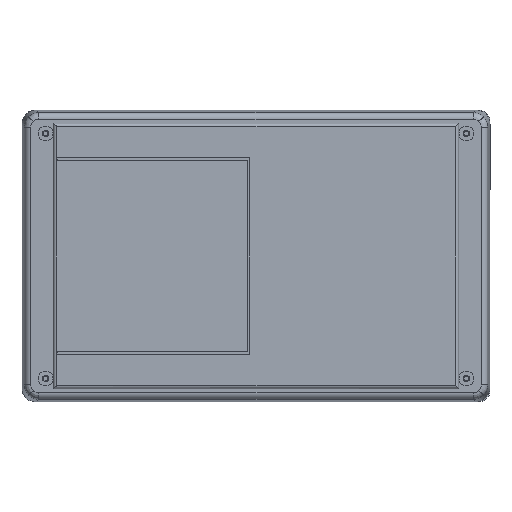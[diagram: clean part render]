
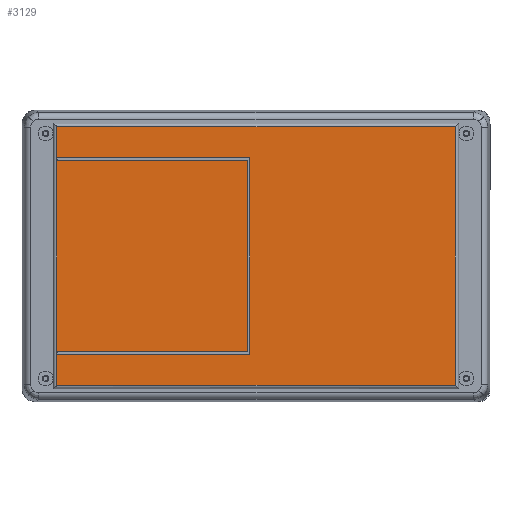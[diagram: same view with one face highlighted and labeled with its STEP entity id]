
A CAD part, front view. The second image highlights one B-rep face of the part: STEP entity #3129.
In plain terms, the highlighted planar face has unit normal (0, -1, 0).
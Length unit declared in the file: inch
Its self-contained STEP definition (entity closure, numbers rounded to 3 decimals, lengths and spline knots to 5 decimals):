
#168 = EDGE_CURVE ( 'NONE', #3325, #7472, #5228, .T. ) ;
#215 = CARTESIAN_POINT ( 'NONE',  ( -2.43468, -0.70866, 1.20079 ) ) ;
#373 = DIRECTION ( 'NONE',  ( 0., -1., 0. ) ) ;
#441 = VERTEX_POINT ( 'NONE', #3504 ) ;
#472 = VECTOR ( 'NONE', #5473, 39.37008 ) ;
#565 = VERTEX_POINT ( 'NONE', #3633 ) ;
#578 = VECTOR ( 'NONE', #2349, 39.37008 ) ;
#684 = DIRECTION ( 'NONE',  ( -1., 0., 0. ) ) ;
#848 = CARTESIAN_POINT ( 'NONE',  ( 2.44094, -0.70866, 1.62402 ) ) ;
#932 = DIRECTION ( 'NONE',  ( -1., 0., 0. ) ) ;
#1035 = CARTESIAN_POINT ( 'NONE',  ( -2.43468, -0.70866, -1.20079 ) ) ;
#1140 = VECTOR ( 'NONE', #5852, 39.37008 ) ;
#1294 = CARTESIAN_POINT ( 'NONE',  ( -2.43468, -0.70866, -1.16929 ) ) ;
#1418 = EDGE_CURVE ( 'NONE', #5858, #441, #4539, .T. ) ;
#1440 = LINE ( 'NONE', #215, #2018 ) ;
#1522 = CARTESIAN_POINT ( 'NONE',  ( -2.48031, -0.70866, 1.62402 ) ) ;
#1650 = EDGE_LOOP ( 'NONE', ( #7610, #5282, #4144, #3055 ) ) ;
#1913 = VERTEX_POINT ( 'NONE', #4912 ) ;
#2018 = VECTOR ( 'NONE', #3835, 39.37008 ) ;
#2092 = VECTOR ( 'NONE', #7535, 39.37008 ) ;
#2260 = CARTESIAN_POINT ( 'NONE',  ( -0.1063, -0.70866, 1.16929 ) ) ;
#2349 = DIRECTION ( 'NONE',  ( 1., 0., 0. ) ) ;
#2427 = CARTESIAN_POINT ( 'NONE',  ( -2.43468, -0.70866, 1.16929 ) ) ;
#2476 = VECTOR ( 'NONE', #3040, 39.37008 ) ;
#2485 = CARTESIAN_POINT ( 'NONE',  ( -2.43468, -0.70866, 1.16929 ) ) ;
#2764 = LINE ( 'NONE', #7077, #1140 ) ;
#2769 = CARTESIAN_POINT ( 'NONE',  ( -2.48031, -0.70866, 1.58465 ) ) ;
#2862 = CARTESIAN_POINT ( 'NONE',  ( -0.1063, -0.70866, 1.16929 ) ) ;
#2868 = ORIENTED_EDGE ( 'NONE', *, *, #4085, .F. ) ;
#2871 = EDGE_CURVE ( 'NONE', #6091, #3325, #6941, .T. ) ;
#2916 = CARTESIAN_POINT ( 'NONE',  ( -0.0748, -0.70866, 1.20079 ) ) ;
#3040 = DIRECTION ( 'NONE',  ( 1., 0., 0. ) ) ;
#3055 = ORIENTED_EDGE ( 'NONE', *, *, #7572, .T. ) ;
#3129 = ADVANCED_FACE ( 'NONE', ( #3974, #7213 ), #4000, .T. ) ;
#3172 = AXIS2_PLACEMENT_3D ( 'NONE', #1522, #373, #4608 ) ;
#3197 = VECTOR ( 'NONE', #7698, 39.37008 ) ;
#3259 = LINE ( 'NONE', #2862, #4692 ) ;
#3325 = VERTEX_POINT ( 'NONE', #1035 ) ;
#3392 = LINE ( 'NONE', #2916, #3197 ) ;
#3407 = CARTESIAN_POINT ( 'NONE',  ( 2.44094, -0.70866, 1.58465 ) ) ;
#3504 = CARTESIAN_POINT ( 'NONE',  ( -2.44094, -0.70866, 1.58465 ) ) ;
#3525 = CARTESIAN_POINT ( 'NONE',  ( -2.43468, -0.70866, -1.16929 ) ) ;
#3622 = CARTESIAN_POINT ( 'NONE',  ( 2.48031, -0.70866, -1.58465 ) ) ;
#3633 = CARTESIAN_POINT ( 'NONE',  ( -0.0748, -0.70866, 1.20079 ) ) ;
#3677 = ORIENTED_EDGE ( 'NONE', *, *, #168, .F. ) ;
#3765 = EDGE_CURVE ( 'NONE', #7472, #565, #3392, .T. ) ;
#3775 = CARTESIAN_POINT ( 'NONE',  ( -2.43468, -0.70866, -1.16929 ) ) ;
#3835 = DIRECTION ( 'NONE',  ( 0., 0., -1. ) ) ;
#3911 = VERTEX_POINT ( 'NONE', #2485 ) ;
#3974 = FACE_BOUND ( 'NONE', #7695, .T. ) ;
#4000 = PLANE ( 'NONE',  #3172 ) ;
#4070 = VERTEX_POINT ( 'NONE', #2260 ) ;
#4085 = EDGE_CURVE ( 'NONE', #4070, #5043, #3259, .T. ) ;
#4144 = ORIENTED_EDGE ( 'NONE', *, *, #5377, .T. ) ;
#4151 = DIRECTION ( 'NONE',  ( 0., 0., -1. ) ) ;
#4314 = ORIENTED_EDGE ( 'NONE', *, *, #6179, .F. ) ;
#4327 = LINE ( 'NONE', #3775, #7355 ) ;
#4336 = CARTESIAN_POINT ( 'NONE',  ( -2.43468, -0.70866, 1.20079 ) ) ;
#4389 = DIRECTION ( 'NONE',  ( -1., 0., 0. ) ) ;
#4539 = LINE ( 'NONE', #2769, #5994 ) ;
#4608 = DIRECTION ( 'NONE',  ( 0., 0., -1. ) ) ;
#4626 = EDGE_CURVE ( 'NONE', #7049, #3911, #1440, .T. ) ;
#4656 = ORIENTED_EDGE ( 'NONE', *, *, #6089, .F. ) ;
#4692 = VECTOR ( 'NONE', #6532, 39.37008 ) ;
#4718 = LINE ( 'NONE', #4336, #6356 ) ;
#4912 = CARTESIAN_POINT ( 'NONE',  ( -2.44094, -0.70866, -1.58465 ) ) ;
#5027 = CARTESIAN_POINT ( 'NONE',  ( 2.44094, -0.70866, -1.58465 ) ) ;
#5043 = VERTEX_POINT ( 'NONE', #5628 ) ;
#5118 = LINE ( 'NONE', #3622, #472 ) ;
#5228 = LINE ( 'NONE', #6006, #578 ) ;
#5282 = ORIENTED_EDGE ( 'NONE', *, *, #1418, .T. ) ;
#5331 = VECTOR ( 'NONE', #4151, 39.37008 ) ;
#5377 = EDGE_CURVE ( 'NONE', #441, #1913, #2764, .T. ) ;
#5473 = DIRECTION ( 'NONE',  ( 1., 0., 0. ) ) ;
#5628 = CARTESIAN_POINT ( 'NONE',  ( -0.1063, -0.70866, -1.16929 ) ) ;
#5783 = CARTESIAN_POINT ( 'NONE',  ( -2.43468, -0.70866, 1.20079 ) ) ;
#5852 = DIRECTION ( 'NONE',  ( 0., 0., -1. ) ) ;
#5858 = VERTEX_POINT ( 'NONE', #3407 ) ;
#5994 = VECTOR ( 'NONE', #932, 39.37008 ) ;
#6006 = CARTESIAN_POINT ( 'NONE',  ( -2.43468, -0.70866, -1.20079 ) ) ;
#6089 = EDGE_CURVE ( 'NONE', #565, #7049, #4718, .T. ) ;
#6091 = VERTEX_POINT ( 'NONE', #1294 ) ;
#6179 = EDGE_CURVE ( 'NONE', #5043, #6091, #4327, .T. ) ;
#6356 = VECTOR ( 'NONE', #684, 39.37008 ) ;
#6501 = EDGE_CURVE ( 'NONE', #6572, #5858, #7146, .T. ) ;
#6527 = ORIENTED_EDGE ( 'NONE', *, *, #2871, .F. ) ;
#6532 = DIRECTION ( 'NONE',  ( 0., 0., -1. ) ) ;
#6572 = VERTEX_POINT ( 'NONE', #5027 ) ;
#6658 = ORIENTED_EDGE ( 'NONE', *, *, #3765, .F. ) ;
#6941 = LINE ( 'NONE', #3525, #5331 ) ;
#7049 = VERTEX_POINT ( 'NONE', #5783 ) ;
#7077 = CARTESIAN_POINT ( 'NONE',  ( -2.44094, -0.70866, -1.62402 ) ) ;
#7146 = LINE ( 'NONE', #848, #2092 ) ;
#7193 = ORIENTED_EDGE ( 'NONE', *, *, #7282, .F. ) ;
#7213 = FACE_OUTER_BOUND ( 'NONE', #1650, .T. ) ;
#7282 = EDGE_CURVE ( 'NONE', #3911, #4070, #7315, .T. ) ;
#7315 = LINE ( 'NONE', #2427, #2476 ) ;
#7355 = VECTOR ( 'NONE', #4389, 39.37008 ) ;
#7455 = CARTESIAN_POINT ( 'NONE',  ( -0.0748, -0.70866, -1.20079 ) ) ;
#7472 = VERTEX_POINT ( 'NONE', #7455 ) ;
#7535 = DIRECTION ( 'NONE',  ( 0., 0., 1. ) ) ;
#7572 = EDGE_CURVE ( 'NONE', #1913, #6572, #5118, .T. ) ;
#7610 = ORIENTED_EDGE ( 'NONE', *, *, #6501, .T. ) ;
#7695 = EDGE_LOOP ( 'NONE', ( #7742, #4656, #6658, #3677, #6527, #4314, #2868, #7193 ) ) ;
#7698 = DIRECTION ( 'NONE',  ( 0., 0., 1. ) ) ;
#7742 = ORIENTED_EDGE ( 'NONE', *, *, #4626, .F. ) ;
